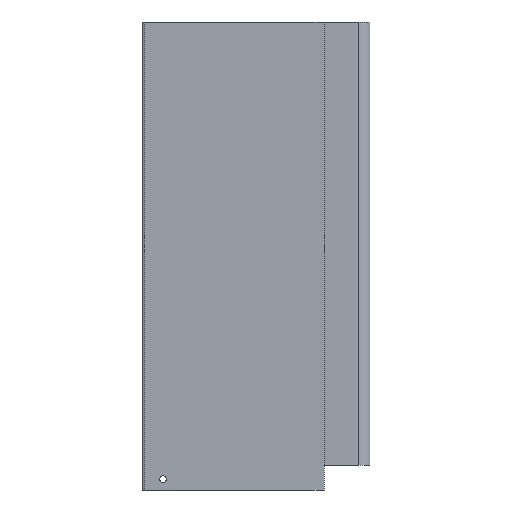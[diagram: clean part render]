
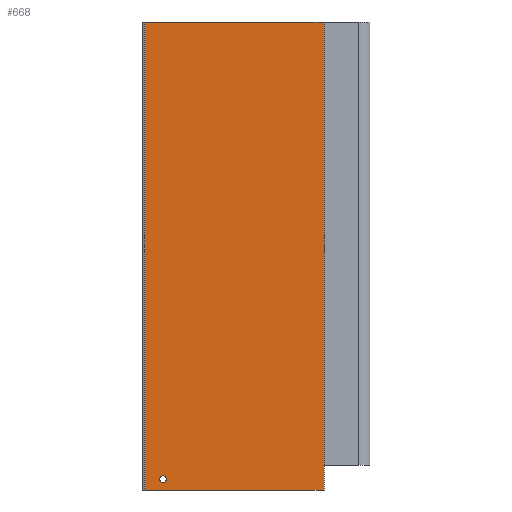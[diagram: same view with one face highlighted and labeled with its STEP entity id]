
A CAD part, left-side view. The second image highlights one B-rep face of the part: STEP entity #668.
In plain terms, the highlighted planar face has unit normal (-1, 0, 0).
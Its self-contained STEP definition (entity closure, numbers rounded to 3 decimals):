
#26 = AXIS2_PLACEMENT_3D ( 'NONE', #705, #700, #699 ) ;
#32 = VECTOR ( 'NONE', #173, 1000. ) ;
#43 = CARTESIAN_POINT ( 'NONE',  ( -8., 14.6, 0. ) ) ;
#70 = PLANE ( 'NONE',  #416 ) ;
#74 = DIRECTION ( 'NONE',  ( 0., 1., 0. ) ) ;
#83 = EDGE_CURVE ( 'NONE', #215, #880, #138, .T. ) ;
#99 = VECTOR ( 'NONE', #477, 1000. ) ;
#112 = EDGE_CURVE ( 'NONE', #247, #352, #122, .T. ) ;
#122 = LINE ( 'NONE', #487, #99 ) ;
#136 = DIRECTION ( 'NONE',  ( 1., 0., 0. ) ) ;
#138 = CIRCLE ( 'NONE', #357, 2.5 ) ;
#143 = CARTESIAN_POINT ( 'NONE',  ( -8., 14.6, -499.266 ) ) ;
#162 = CARTESIAN_POINT ( 'NONE',  ( -8., 14.6, -347.5 ) ) ;
#173 = DIRECTION ( 'NONE',  ( 0., 0., 1. ) ) ;
#178 = ORIENTED_EDGE ( 'NONE', *, *, #410, .T. ) ;
#184 = CARTESIAN_POINT ( 'NONE',  ( -8., -118.5, -499.266 ) ) ;
#190 = ORIENTED_EDGE ( 'NONE', *, *, #226, .F. ) ;
#214 = VECTOR ( 'NONE', #74, 1000. ) ;
#215 = VERTEX_POINT ( 'NONE', #644 ) ;
#218 = EDGE_CURVE ( 'NONE', #695, #247, #772, .T. ) ;
#219 = LINE ( 'NONE', #184, #32 ) ;
#226 = EDGE_CURVE ( 'NONE', #880, #215, #708, .T. ) ;
#247 = VERTEX_POINT ( 'NONE', #43 ) ;
#270 = ORIENTED_EDGE ( 'NONE', *, *, #448, .F. ) ;
#279 = CARTESIAN_POINT ( 'NONE',  ( -8., -118.5, 0. ) ) ;
#289 = CARTESIAN_POINT ( 'NONE',  ( -8., 1., -342. ) ) ;
#305 = CARTESIAN_POINT ( 'NONE',  ( -8., -118.5, -347.5 ) ) ;
#352 = VERTEX_POINT ( 'NONE', #279 ) ;
#357 = AXIS2_PLACEMENT_3D ( 'NONE', #854, #535, #862 ) ;
#399 = VERTEX_POINT ( 'NONE', #305 ) ;
#410 = EDGE_CURVE ( 'NONE', #399, #352, #219, .T. ) ;
#416 = AXIS2_PLACEMENT_3D ( 'NONE', #143, #136, #861 ) ;
#420 = LINE ( 'NONE', #162, #214 ) ;
#427 = ORIENTED_EDGE ( 'NONE', *, *, #112, .F. ) ;
#448 = EDGE_CURVE ( 'NONE', #399, #695, #420, .T. ) ;
#477 = DIRECTION ( 'NONE',  ( 0., -1., 0. ) ) ;
#487 = CARTESIAN_POINT ( 'NONE',  ( -8., 14.6, 0. ) ) ;
#514 = EDGE_LOOP ( 'NONE', ( #653, #190 ) ) ;
#535 = DIRECTION ( 'NONE',  ( -1., 0., 0. ) ) ;
#576 = EDGE_LOOP ( 'NONE', ( #178, #427, #632, #270 ) ) ;
#632 = ORIENTED_EDGE ( 'NONE', *, *, #218, .F. ) ;
#644 = CARTESIAN_POINT ( 'NONE',  ( -8., 1., -337. ) ) ;
#653 = ORIENTED_EDGE ( 'NONE', *, *, #83, .F. ) ;
#668 = ADVANCED_FACE ( 'NONE', ( #767, #807 ), #70, .F. ) ;
#684 = DIRECTION ( 'NONE',  ( 0., 0., 1. ) ) ;
#695 = VERTEX_POINT ( 'NONE', #816 ) ;
#699 = DIRECTION ( 'NONE',  ( 0., -1., 0. ) ) ;
#700 = DIRECTION ( 'NONE',  ( -1., 0., 0. ) ) ;
#705 = CARTESIAN_POINT ( 'NONE',  ( -8., 1., -339.5 ) ) ;
#708 = CIRCLE ( 'NONE', #26, 2.5 ) ;
#753 = VECTOR ( 'NONE', #684, 1000. ) ;
#765 = CARTESIAN_POINT ( 'NONE',  ( -8., 14.6, -499.266 ) ) ;
#767 = FACE_BOUND ( 'NONE', #514, .T. ) ;
#772 = LINE ( 'NONE', #765, #753 ) ;
#807 = FACE_OUTER_BOUND ( 'NONE', #576, .T. ) ;
#816 = CARTESIAN_POINT ( 'NONE',  ( -8., 14.6, -347.5 ) ) ;
#854 = CARTESIAN_POINT ( 'NONE',  ( -8., 1., -339.5 ) ) ;
#861 = DIRECTION ( 'NONE',  ( 0., -1., 0. ) ) ;
#862 = DIRECTION ( 'NONE',  ( 0., -1., 0. ) ) ;
#880 = VERTEX_POINT ( 'NONE', #289 ) ;
